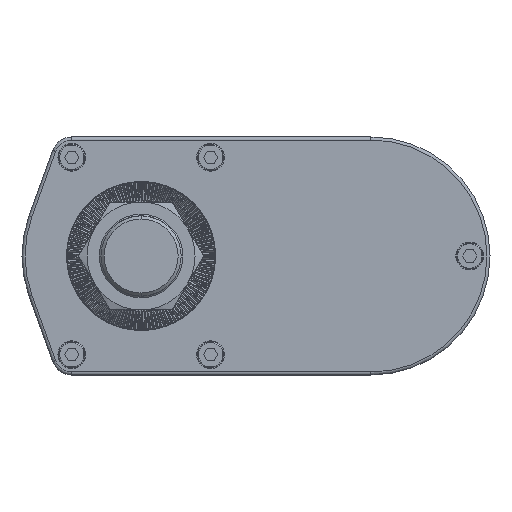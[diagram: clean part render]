
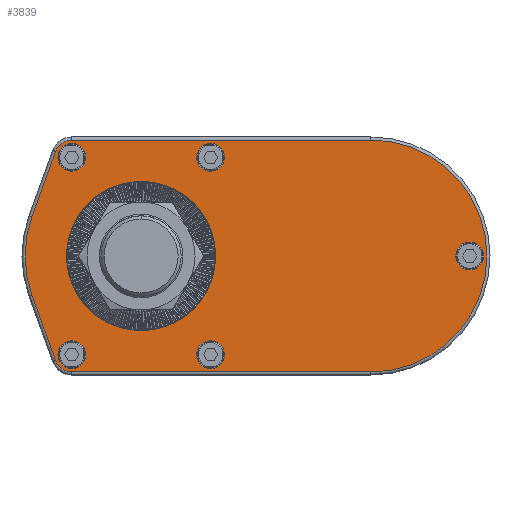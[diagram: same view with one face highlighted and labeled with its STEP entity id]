
A CAD part, left-side view. The second image highlights one B-rep face of the part: STEP entity #3839.
In plain terms, the highlighted planar face has unit normal (-1, 0, 0).
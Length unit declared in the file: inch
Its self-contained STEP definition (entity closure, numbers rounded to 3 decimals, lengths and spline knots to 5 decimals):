
#3839=ADVANCED_FACE('',(#8261,#8262,#8263,#8264,#8265,#8266,#8267),#8268,.F.);
#8261=FACE_BOUND('',#13621,.T.);
#8262=FACE_BOUND('',#13622,.T.);
#8263=FACE_BOUND('',#13623,.T.);
#8264=FACE_BOUND('',#13624,.T.);
#8265=FACE_BOUND('',#13625,.T.);
#8266=FACE_BOUND('',#13626,.T.);
#8267=FACE_OUTER_BOUND('',#13627,.T.);
#8268=PLANE('',#13628);
#13621=EDGE_LOOP('',(#25075,#25076));
#13622=EDGE_LOOP('',(#25077,#25078));
#13623=EDGE_LOOP('',(#25079,#25080));
#13624=EDGE_LOOP('',(#25081,#25082));
#13625=EDGE_LOOP('',(#25083,#25084));
#13626=EDGE_LOOP('',(#25085,#25086));
#13627=EDGE_LOOP('',(#25087,#25088,#25089,#25090,#25091,#25092,#25093,#25094));
#13628=AXIS2_PLACEMENT_3D('',#25095,#25096,#25097);
#25075=ORIENTED_EDGE('',*,*,#33348,.F.);
#25076=ORIENTED_EDGE('',*,*,#33717,.F.);
#25077=ORIENTED_EDGE('',*,*,#34630,.T.);
#25078=ORIENTED_EDGE('',*,*,#34091,.T.);
#25079=ORIENTED_EDGE('',*,*,#32935,.T.);
#25080=ORIENTED_EDGE('',*,*,#34467,.T.);
#25081=ORIENTED_EDGE('',*,*,#34264,.T.);
#25082=ORIENTED_EDGE('',*,*,#32376,.T.);
#25083=ORIENTED_EDGE('',*,*,#34631,.T.);
#25084=ORIENTED_EDGE('',*,*,#34632,.T.);
#25085=ORIENTED_EDGE('',*,*,#33086,.T.);
#25086=ORIENTED_EDGE('',*,*,#34633,.T.);
#25087=ORIENTED_EDGE('',*,*,#32638,.T.);
#25088=ORIENTED_EDGE('',*,*,#32355,.T.);
#25089=ORIENTED_EDGE('',*,*,#31373,.T.);
#25090=ORIENTED_EDGE('',*,*,#31966,.T.);
#25091=ORIENTED_EDGE('',*,*,#34634,.T.);
#25092=ORIENTED_EDGE('',*,*,#34635,.T.);
#25093=ORIENTED_EDGE('',*,*,#33851,.T.);
#25094=ORIENTED_EDGE('',*,*,#32510,.T.);
#25095=CARTESIAN_POINT('',(0.0,-2.93307,0.0));
#25096=DIRECTION('',(1.0,0.0,0.0));
#25097=DIRECTION('',(0.0,1.0,-0.0));
#31373=EDGE_CURVE('',#37984,#37982,#37985,.F.);
#31966=EDGE_CURVE('',#37982,#38917,#38919,.F.);
#32355=EDGE_CURVE('',#39512,#37984,#39513,.F.);
#32376=EDGE_CURVE('',#39545,#39543,#39546,.T.);
#32510=EDGE_CURVE('',#39734,#39736,#39738,.F.);
#32638=EDGE_CURVE('',#39736,#39512,#39924,.F.);
#32935=EDGE_CURVE('',#40354,#40358,#40360,.T.);
#33086=EDGE_CURVE('',#40572,#40574,#40576,.T.);
#33348=EDGE_CURVE('',#40950,#40952,#40953,.F.);
#33717=EDGE_CURVE('',#40952,#40950,#41506,.F.);
#33851=EDGE_CURVE('',#41665,#39734,#41667,.F.);
#34091=EDGE_CURVE('',#41957,#41955,#41958,.T.);
#34264=EDGE_CURVE('',#39543,#39545,#42161,.T.);
#34467=EDGE_CURVE('',#40358,#40354,#42408,.T.);
#34630=EDGE_CURVE('',#41955,#41957,#42597,.T.);
#34631=EDGE_CURVE('',#42598,#42599,#42600,.T.);
#34632=EDGE_CURVE('',#42599,#42598,#42601,.T.);
#34633=EDGE_CURVE('',#40574,#40572,#42602,.T.);
#34634=EDGE_CURVE('',#38917,#42603,#42604,.F.);
#34635=EDGE_CURVE('',#42603,#41665,#42605,.F.);
#37982=VERTEX_POINT('',#46840);
#37984=VERTEX_POINT('',#46842);
#37985=CIRCLE('',#46843,0.22047);
#38917=VERTEX_POINT('',#48136);
#38919=LINE('',#48138,#48139);
#39512=VERTEX_POINT('',#48931);
#39513=LINE('',#48932,#48933);
#39543=VERTEX_POINT('',#48974);
#39545=VERTEX_POINT('',#48977);
#39546=CIRCLE('',#48978,0.17717);
#39734=VERTEX_POINT('',#49246);
#39736=VERTEX_POINT('',#49248);
#39738=LINE('',#49250,#49251);
#39924=CIRCLE('',#49497,1.48031);
#40354=VERTEX_POINT('',#50114);
#40358=VERTEX_POINT('',#50119);
#40360=CIRCLE('',#50122,0.17717);
#40572=VERTEX_POINT('',#50413);
#40574=VERTEX_POINT('',#50416);
#40576=CIRCLE('',#50419,0.17717);
#40950=VERTEX_POINT('',#50915);
#40952=VERTEX_POINT('',#50918);
#40953=CIRCLE('',#50919,0.94882);
#41506=CIRCLE('',#51520,0.94882);
#41665=VERTEX_POINT('',#51748);
#41667=CIRCLE('',#51750,0.22047);
#41955=VERTEX_POINT('',#52178);
#41957=VERTEX_POINT('',#52181);
#41958=CIRCLE('',#52182,0.17717);
#42161=CIRCLE('',#52468,0.17717);
#42408=CIRCLE('',#52808,0.17717);
#42597=CIRCLE('',#53071,0.17717);
#42598=VERTEX_POINT('',#53072);
#42599=VERTEX_POINT('',#53073);
#42600=CIRCLE('',#53074,0.17717);
#42601=CIRCLE('',#53075,0.17717);
#42602=CIRCLE('',#53076,0.17717);
#42603=VERTEX_POINT('',#53077);
#42604=CIRCLE('',#53078,1.48031);
#42605=LINE('',#53079,#53080);
#46840=CARTESIAN_POINT('',(0.0,0.88425,-1.48031));
#46842=CARTESIAN_POINT('',(0.0,1.0916,-1.33479));
#46843=AXIS2_PLACEMENT_3D('',#56233,#56234,#56235);
#48136=CARTESIAN_POINT('',(0.0,-2.93307,-1.48031));
#48138=CARTESIAN_POINT('',(0.0,-2.93307,-1.48031));
#48139=VECTOR('',#56923,39.37008);
#48931=CARTESIAN_POINT('',(0.0,1.39217,-0.50319));
#48932=CARTESIAN_POINT('',(0.0,1.0916,-1.33479));
#48933=VECTOR('',#57465,39.37008);
#48974=CARTESIAN_POINT('',(0.0,-0.8874,-1.43701));
#48977=CARTESIAN_POINT('',(0.0,-0.8874,-1.08268));
#48978=AXIS2_PLACEMENT_3D('',#57487,#57488,#57489);
#49246=CARTESIAN_POINT('',(0.0,1.0916,1.33479));
#49248=CARTESIAN_POINT('',(0.0,1.39217,0.50319));
#49250=CARTESIAN_POINT('',(0.0,1.39217,0.50319));
#49251=VECTOR('',#57636,39.37008);
#49497=AXIS2_PLACEMENT_3D('',#57787,#57788,#57789);
#50114=CARTESIAN_POINT('',(0.0,0.88425,1.08268));
#50119=CARTESIAN_POINT('',(0.0,0.88425,1.43701));
#50122=AXIS2_PLACEMENT_3D('',#58129,#58130,#58131);
#50413=CARTESIAN_POINT('',(0.0,0.88425,-1.43701));
#50416=CARTESIAN_POINT('',(0.0,0.88425,-1.08268));
#50419=AXIS2_PLACEMENT_3D('',#58312,#58313,#58314);
#50915=CARTESIAN_POINT('',(0.0,0.0,-0.94882));
#50918=CARTESIAN_POINT('',(0.0,0.,0.94882));
#50919=AXIS2_PLACEMENT_3D('',#58678,#58679,#58680);
#51520=AXIS2_PLACEMENT_3D('',#59593,#59594,#59595);
#51748=CARTESIAN_POINT('',(0.0,0.88425,1.48031));
#51750=AXIS2_PLACEMENT_3D('',#59722,#59723,#59724);
#52178=CARTESIAN_POINT('',(0.0,-4.19449,-0.17717));
#52181=CARTESIAN_POINT('',(0.0,-4.19449,0.17717));
#52182=AXIS2_PLACEMENT_3D('',#59927,#59928,#59929);
#52468=AXIS2_PLACEMENT_3D('',#60082,#60083,#60084);
#52808=AXIS2_PLACEMENT_3D('',#60309,#60310,#60311);
#53071=AXIS2_PLACEMENT_3D('',#60481,#60482,#60483);
#53072=CARTESIAN_POINT('',(0.0,-0.8874,1.08268));
#53073=CARTESIAN_POINT('',(0.0,-0.8874,1.43701));
#53074=AXIS2_PLACEMENT_3D('',#60484,#60485,#60486);
#53075=AXIS2_PLACEMENT_3D('',#60487,#60488,#60489);
#53076=AXIS2_PLACEMENT_3D('',#60490,#60491,#60492);
#53077=CARTESIAN_POINT('',(0.0,-2.93307,1.48031));
#53078=AXIS2_PLACEMENT_3D('',#60493,#60494,#60495);
#53079=CARTESIAN_POINT('',(0.0,0.88425,1.48031));
#53080=VECTOR('',#60496,39.37008);
#56233=CARTESIAN_POINT('',(0.0,0.88425,-1.25984));
#56234=DIRECTION('',(1.0,0.0,0.0));
#56235=DIRECTION('',(0.0,0.0,-1.0));
#56923=DIRECTION('',(0.0,1.0,0.0));
#57465=DIRECTION('',(0.0,0.34,0.94));
#57487=CARTESIAN_POINT('',(0.0,-0.8874,-1.25984));
#57488=DIRECTION('',(1.0,0.0,0.0));
#57489=DIRECTION('',(0.0,0.0,-1.0));
#57636=DIRECTION('',(0.0,-0.34,0.94));
#57787=CARTESIAN_POINT('',(0.0,0.,0.0));
#57788=DIRECTION('',(1.0,0.0,0.0));
#57789=DIRECTION('',(0.0,0.0,-1.0));
#58129=CARTESIAN_POINT('',(0.0,0.88425,1.25984));
#58130=DIRECTION('',(1.0,0.0,0.0));
#58131=DIRECTION('',(0.0,0.0,-1.0));
#58312=CARTESIAN_POINT('',(0.0,0.88425,-1.25984));
#58313=DIRECTION('',(1.0,0.0,0.0));
#58314=DIRECTION('',(0.0,0.0,-1.0));
#58678=CARTESIAN_POINT('',(0.0,0.0,0.0));
#58679=DIRECTION('',(1.0,0.0,0.0));
#58680=DIRECTION('',(0.0,0.0,-1.0));
#59593=CARTESIAN_POINT('',(0.0,0.0,0.0));
#59594=DIRECTION('',(1.0,0.0,0.0));
#59595=DIRECTION('',(0.0,0.0,-1.0));
#59722=CARTESIAN_POINT('',(0.0,0.88425,1.25984));
#59723=DIRECTION('',(1.0,0.0,0.0));
#59724=DIRECTION('',(0.0,0.0,-1.0));
#59927=CARTESIAN_POINT('',(0.0,-4.19449,0.0));
#59928=DIRECTION('',(1.0,0.0,0.0));
#59929=DIRECTION('',(0.0,0.0,-1.0));
#60082=CARTESIAN_POINT('',(0.0,-0.8874,-1.25984));
#60083=DIRECTION('',(1.0,0.0,0.0));
#60084=DIRECTION('',(0.0,0.0,-1.0));
#60309=CARTESIAN_POINT('',(0.0,0.88425,1.25984));
#60310=DIRECTION('',(1.0,0.0,0.0));
#60311=DIRECTION('',(0.0,0.0,-1.0));
#60481=CARTESIAN_POINT('',(0.0,-4.19449,0.0));
#60482=DIRECTION('',(1.0,0.0,0.0));
#60483=DIRECTION('',(0.0,0.0,-1.0));
#60484=CARTESIAN_POINT('',(0.0,-0.8874,1.25984));
#60485=DIRECTION('',(1.0,0.0,0.0));
#60486=DIRECTION('',(0.0,0.0,-1.0));
#60487=CARTESIAN_POINT('',(0.0,-0.8874,1.25984));
#60488=DIRECTION('',(1.0,0.0,0.0));
#60489=DIRECTION('',(0.0,0.0,-1.0));
#60490=CARTESIAN_POINT('',(0.0,0.88425,-1.25984));
#60491=DIRECTION('',(1.0,0.0,0.0));
#60492=DIRECTION('',(0.0,0.0,-1.0));
#60493=CARTESIAN_POINT('',(0.0,-2.93307,0.0));
#60494=DIRECTION('',(1.0,0.0,0.0));
#60495=DIRECTION('',(0.0,0.0,-1.0));
#60496=DIRECTION('',(0.0,-1.0,0.0));
